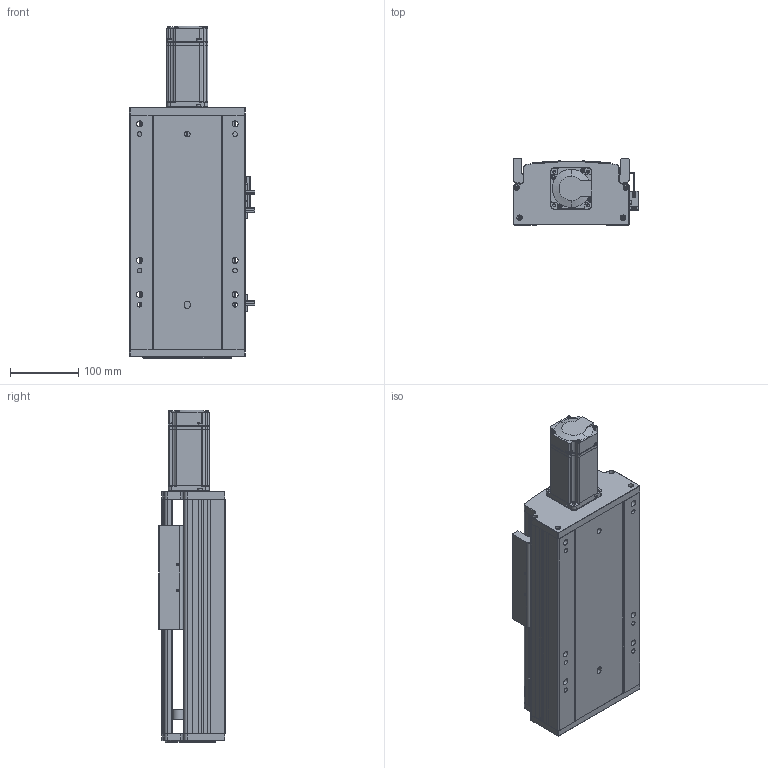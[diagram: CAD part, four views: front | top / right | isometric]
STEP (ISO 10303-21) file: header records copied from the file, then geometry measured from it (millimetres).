
FILE_DESCRIPTION (( 'STEP AP203' ), '1' );
FILE_NAME ('RY170Q-L2020-400-MK.SLDASM_0100.step', '2021-05-31T02:01:54', ( '盈信电脑' ), ( '东莞市道滘镇水果街19号' ), 'SwSTEP 2.0', 'SolidWorks 2016', '' );
FILE_SCHEMA (( 'CONFIG_CONTROL_DESIGN' ));
Length unit declared in the file: millimetre
Products named in the file (12): RY170Q-L2020-400-MK.SLDASM_0100; 覜茼ん672; RY170Q-400倰第裔啣-MK_0100; 15; RY170綴裔啣; RY170外置感应片(200共用）; 侂狟400W侜督萇儂; RY170Q-400倰第菁釱-MK_0100; 滅袉蝶18-10; 滅袉蝶18-15; RY170ヶ醱裔啣; RY170Q臏賑輸20佪裝蹟譫(FK15)
Assembly tree (14 placements, depth 3):
  RY170Q-L2020-400-MK.SLDASM_0100
    RY170Q-400倰第菁釱-MK_0100
    RY170Q-400倰第裔啣-MK_0100
    RY170Q臏賑輸20佪裝蹟譫(FK15)
    侂狟400W侜督萇儂
      15
    RY170綴裔啣
    覜茼ん672  x3
    RY170外置感应片(200共用）
    RY170ヶ醱裔啣
    滅袉蝶18-15  x2
    滅袉蝶18-10
Bounding box: 183.7 x 97 x 486.5 mm (x, y, z)
Volume: 2458279 mm3; surface area: 715139.6 mm2
Topology: 13 solids, 13 shells, 2046 faces, 5755 edges, 3741 vertices
Faces by surface type: plane 1185, cylinder 699, cone 133, bspline 29
Entity records: 63242 total; most frequent: CARTESIAN_POINT 13455, ORIENTED_EDGE 10346, DIRECTION 9868, EDGE_CURVE 5173, LINE 3460, VECTOR 3460, VERTEX_POINT 3409, AXIS2_PLACEMENT_3D 3204
